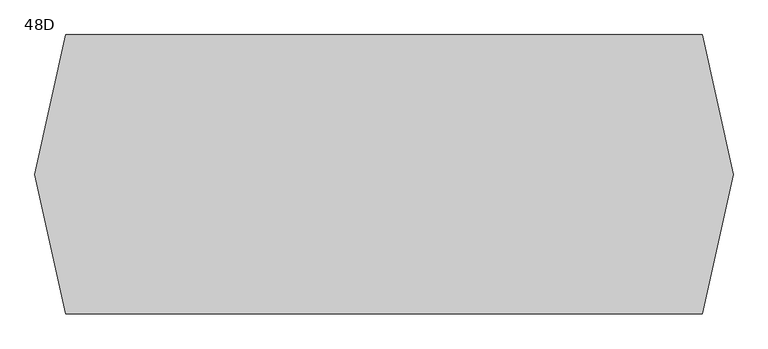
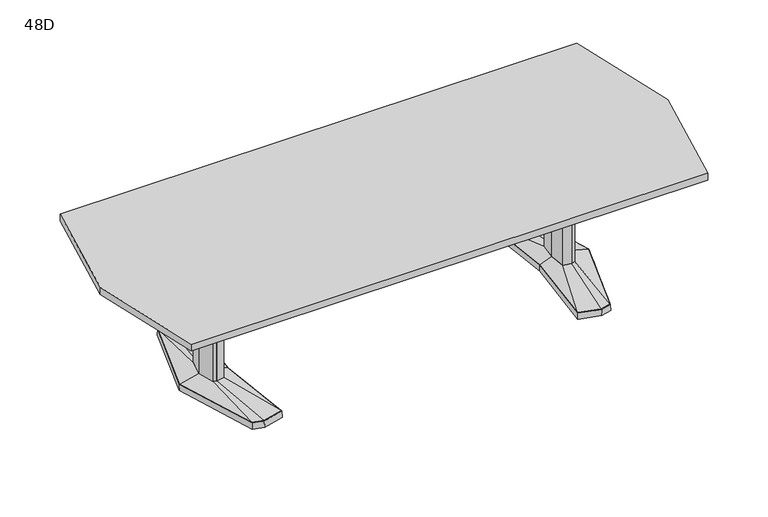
"""IFC4 building model written with IfcOpenShell, lengths in millimetres: furniture geometry, Coalesse_AM_Table_Conference_ETable2_Faceted_10ft_AluminiumBase : 48D."""

from ifc_helpers import new_model, si_unit, frame, origin, place, context, project, spatial, polyline, outline, extrude, faceted_brep, source, transform, mapped, element, save
from ifc_brep_helpers import plane_surface, spline_surface, advanced_brep


def furniture_48d_3d201100(model_context):
    return source(origin(), model_context, "Body", "SolidModel", [
        faceted_brep([(905.8773747, 455.5848221, 38.1), (796.2998188, 426.2263816, 38.1), (837.4630629, 0.0, 38.1), (796.2998188, -426.2263816, 38.1), (905.8773747, -455.5848221, 38.1), (962.0037308, -440.5478297, 38.1), (1099.3151181, 0.0, 38.1), (962.0037308, 440.5478297, 38.1), (905.8773666, 457.2283104, 3.175), (963.2591384, 441.8549756, 3.175), (1100.9779412, 0.0, 3.175), (963.2591384, -441.8549756, 3.175), (905.8773666, -457.2283104, 3.175), (794.5904412, -427.4118891, 3.175), (835.8681768, 0.0, 3.175), (794.5904412, 427.4118891, 3.175), (909.4668062, 428.3273875, 3.175), (804.418514, 402.1057253, 3.175), (812.5372092, 377.985069, 3.175), (913.0562377, 401.0699529, 3.175), (963.6158637, 387.524361, 3.175), (962.8097973, 414.0360954, 3.175), (909.4668062, -428.3273875, 3.175), (962.8097973, -414.0360954, 3.175), (963.6158637, -387.524361, 3.175), (913.0562377, -401.0699529, 3.175), (812.5372092, -377.985069, 3.175), (804.418514, -402.1057253, 3.175), (1036.0620533, 0.0, 3.175), (1003.7926523, 120.4193755, 3.175), (955.1454133, 133.471665, 3.175), (875.2647438, 119.4176561, 3.175), (864.1335378, 0.0, 3.175), (875.2647438, -119.4176561, 3.175), (955.1454133, -133.471665, 3.175), (1003.7926523, -120.4193755, 3.175), (909.4668062, 428.3273875, 0.0), (962.8097973, 414.0360954, 0.0), (963.6158637, 387.524361, 0.0), (913.0562377, 401.0699529, 0.0), (812.5372092, 377.985069, 0.0), (804.418514, 402.1057253, 0.0), (909.4668062, -428.3273875, 0.0), (804.418514, -402.1057253, 0.0), (812.5372092, -377.985069, 0.0), (913.0562377, -401.0699529, 0.0), (963.6158637, -387.524361, 0.0), (962.8097973, -414.0360954, 0.0), (1036.0620533, 0.0, 0.0), (1003.7926523, -120.4193755, 0.0), (955.1454133, -133.471665, 0.0), (875.2647438, -119.4176561, 0.0), (864.1335378, 0.0, 0.0), (875.2647438, 119.4176561, 0.0), (955.1454133, 133.471665, 0.0), (1003.7926523, 120.4193755, 0.0)], [[[0, 1, 2, 3, 4, 5, 6, 7]], [[8, 9, 10, 11, 12, 13, 14, 15], [16, 17, 18, 19, 20, 21], [22, 23, 24, 25, 26, 27], [28, 29, 30, 31, 32, 33, 34, 35]], [[7, 9, 8, 0]], [[6, 10, 9, 7]], [[5, 11, 10, 6]], [[4, 12, 11, 5]], [[3, 13, 12, 4]], [[2, 14, 13, 3]], [[1, 15, 14, 2]], [[0, 8, 15, 1]], [[36, 37, 38, 39, 40, 41]], [[42, 43, 44, 45, 46, 47]], [[48, 49, 50, 51, 52, 53, 54, 55]], [[36, 16, 21, 37]], [[37, 21, 20, 38]], [[38, 20, 19, 39]], [[39, 19, 18, 40]], [[40, 18, 17, 41]], [[41, 17, 16, 36]], [[42, 22, 27, 43]], [[43, 27, 26, 44]], [[44, 26, 25, 45]], [[45, 25, 24, 46]], [[46, 24, 23, 47]], [[47, 23, 22, 42]], [[48, 28, 35, 49]], [[49, 35, 34, 50]], [[50, 34, 33, 51]], [[51, 33, 32, 52]], [[52, 32, 31, 53]], [[53, 31, 30, 54]], [[54, 30, 29, 55]], [[55, 29, 28, 48]]]),
        faceted_brep([(996.6177748, 0.0, 698.5), (972.6825457, 89.3188359, 698.5), (955.8291896, 93.8406728, 698.5), (953.4293423, 94.4845635, 698.5), (910.5018372, 86.9320037, 698.5), (902.3986967, 0.0, 698.5), (910.5018372, -86.9320037, 698.5), (953.4293423, -94.4845635, 698.5), (955.8291896, -93.8406728, 698.5), (972.6825457, -89.3188359, 698.5), (996.6177748, 0.0, 63.5), (972.6825457, -89.3188359, 63.5), (955.8291896, -93.8406728, 63.5), (953.4293423, -94.4845635, 63.5), (910.5018372, -86.9320037, 63.5), (902.3986967, 0.0, 63.5), (910.5018372, 86.9320037, 63.5), (953.4293423, 94.4845635, 63.5), (955.8291896, 93.8406728, 63.5), (972.6825457, 89.3188359, 63.5)], [[[0, 1, 2, 3, 4, 5, 6, 7, 8, 9]], [[10, 11, 12, 13, 14, 15, 16, 17, 18, 19]], [[9, 11, 10, 0]], [[8, 12, 11, 9]], [[7, 13, 12, 8]], [[6, 14, 13, 7]], [[5, 15, 14, 6]], [[4, 16, 15, 5]], [[3, 17, 16, 4]], [[2, 18, 17, 3]], [[1, 19, 18, 2]], [[0, 10, 19, 1]]]),
        advanced_brep(
        [(953.4293423, 94.4845635, 63.5), (910.5018372, 86.9320037, 63.5), (902.3986967, 0.0, 63.5), (910.5018372, -86.9320037, 63.5), (953.4293423, -94.4845635, 63.5), (972.6825457, -89.3188359, 63.5), (996.6177748, 0.0, 63.5), (972.6825457, 89.3188359, 63.5), (905.8773747, 455.5848221, 38.1), (962.0037308, 440.5478297, 38.1), (1099.3151181, 0.0, 38.1), (962.0037308, -440.5478297, 38.1), (905.8773747, -455.5848221, 38.1), (796.2998188, -426.2263816, 38.1), (837.4630629, 0.0, 38.1), (796.2998188, 426.2263816, 38.1)],
        [
            (0, 1),
            (1, 2),
            (2, 3),
            (3, 4),
            (4, 5),
            (5, 6),
            (6, 7),
            (7, 0),
            (8, 9),
            (9, 10),
            (10, 11),
            (11, 12),
            (12, 13),
            (13, 14),
            (14, 15),
            (15, 8),
            (8, 0),
            (7, 9),
            (6, 10),
            (5, 11),
            (4, 12),
            (3, 13),
            (2, 14),
            (1, 15),
        ],
        [
            plane_surface(frame((946.5304902, 0.0, 63.5), z_axis=(0.0, 0.0, 1.0), x_axis=(-0.25884244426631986, -0.9659195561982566, 0.0))),
            plane_surface(frame((908.1425037, 0.0, 38.1), z_axis=(0.0, 0.0, -1.0), x_axis=(-0.25884244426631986, -0.9659195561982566, 0.0))),
            spline_surface(1, 1, [[(905.8773747, 455.5848221, 38.1), (962.0037308, 440.5478297, 38.1)], [(953.4293423, 94.4845635, 63.5), (972.6825457, 89.3188359, 63.5)]], [2, 2], [2, 2], [0.0, 1.0], [0.0, 1.0]),
            spline_surface(1, 1, [[(962.0037308, 440.5478297, 38.1), (1099.3151181, 0.0, 38.1)], [(972.6825457, 89.3188359, 63.5), (996.6177748, 0.0, 63.5)]], [2, 2], [2, 2], [0.0, 1.0], [0.0, 1.0]),
            spline_surface(1, 1, [[(1099.3151181, 0.0, 38.1), (962.0037308, -440.5478297, 38.1)], [(996.6177748, 0.0, 63.5), (972.6825457, -89.3188359, 63.5)]], [2, 2], [2, 2], [0.0, 1.0], [0.0, 1.0]),
            spline_surface(1, 1, [[(962.0037308, -440.5478297, 38.1), (905.8773747, -455.5848221, 38.1)], [(972.6825457, -89.3188359, 63.5), (953.4293423, -94.4845635, 63.5)]], [2, 2], [2, 2], [0.0, 1.0], [0.0, 1.0]),
            spline_surface(1, 1, [[(905.8773747, -455.5848221, 38.1), (796.2998188, -426.2263816, 38.1)], [(953.4293423, -94.4845635, 63.5), (910.5018372, -86.9320037, 63.5)]], [2, 2], [2, 2], [0.0, 1.0], [0.0, 1.0]),
            spline_surface(1, 1, [[(796.2998188, -426.2263816, 38.1), (837.4630629, 0.0, 38.1)], [(910.5018372, -86.9320037, 63.5), (902.3986967, 0.0, 63.5)]], [2, 2], [2, 2], [0.0, 1.0], [0.0, 1.0]),
            spline_surface(1, 1, [[(837.4630629, 0.0, 38.1), (796.2998188, 426.2263816, 38.1)], [(902.3986967, 0.0, 63.5), (910.5018372, 86.9320037, 63.5)]], [2, 2], [2, 2], [0.0, 1.0], [0.0, 1.0]),
            spline_surface(1, 1, [[(796.2998188, 426.2263816, 38.1), (905.8773747, 455.5848221, 38.1)], [(910.5018372, 86.9320037, 63.5), (953.4293423, 94.4845635, 63.5)]], [2, 2], [2, 2], [0.0, 1.0], [0.0, 1.0]),
        ],
        [
            (0, [[1, 2, 3, 4, 5, 6, 7, 8]]),
            (1, [[9, 10, 11, 12, 13, 14, 15, 16]]),
            (2, [[17, -8, 18, -9]]),
            (3, [[-18, -7, 19, -10]]),
            (4, [[-19, -6, 20, -11]]),
            (5, [[-20, -5, 21, -12]]),
            (6, [[-21, -4, 22, -13]]),
            (7, [[-22, -3, 23, -14]]),
            (8, [[-23, -2, 24, -15]]),
            (9, [[-24, -1, -17, -16]]),
        ],
    ),
        faceted_brep([(-905.8306835, 455.5848221, 38.1), (-961.9570396, 440.5478297, 38.1), (-1099.2684269, 0.0, 38.1), (-961.9570396, -440.5478297, 38.1), (-905.8306835, -455.5848221, 38.1), (-796.2531277, -426.2263816, 38.1), (-837.4163717, 0.0, 38.1), (-796.2531277, 426.2263816, 38.1), (-905.8306754, 457.2283104, 3.175), (-794.54375, 427.4118891, 3.175), (-835.8214856, 0.0, 3.175), (-794.54375, -427.4118891, 3.175), (-905.8306754, -457.2283104, 3.175), (-963.2124472, -441.8549756, 3.175), (-1100.93125, 0.0, 3.175), (-963.2124472, 441.8549756, 3.175), (-909.420115, 428.3273875, 3.175), (-962.7631061, 414.0360954, 3.175), (-963.5691725, 387.524361, 3.175), (-913.0095466, 401.0699529, 3.175), (-812.490518, 377.985069, 3.175), (-804.3718228, 402.1057253, 3.175), (-909.420115, -428.3273875, 3.175), (-804.3718228, -402.1057253, 3.175), (-812.490518, -377.985069, 3.175), (-913.0095466, -401.0699529, 3.175), (-963.5691725, -387.524361, 3.175), (-962.7631061, -414.0360954, 3.175), (-1036.0153621, 0.0, 3.175), (-1003.7459611, -120.4193755, 3.175), (-955.0987222, -133.471665, 3.175), (-875.2180526, -119.4176561, 3.175), (-864.0868466, 0.0, 3.175), (-875.2180526, 119.4176561, 3.175), (-955.0987222, 133.471665, 3.175), (-1003.7459611, 120.4193755, 3.175), (-909.420115, 428.3273875, 0.0), (-804.3718228, 402.1057253, 0.0), (-812.490518, 377.985069, 0.0), (-913.0095466, 401.0699529, 0.0), (-963.5691725, 387.524361, 0.0), (-962.7631061, 414.0360954, 0.0), (-909.420115, -428.3273875, 0.0), (-962.7631061, -414.0360954, 0.0), (-963.5691725, -387.524361, 0.0), (-913.0095466, -401.0699529, 0.0), (-812.490518, -377.985069, 0.0), (-804.3718228, -402.1057253, 0.0), (-1036.0153621, 0.0, 0.0), (-1003.7459611, 120.4193755, 0.0), (-955.0987222, 133.471665, 0.0), (-875.2180526, 119.4176561, 0.0), (-864.0868466, 0.0, 0.0), (-875.2180526, -119.4176561, 0.0), (-955.0987222, -133.471665, 0.0), (-1003.7459611, -120.4193755, 0.0)], [[[0, 1, 2, 3, 4, 5, 6, 7]], [[8, 9, 10, 11, 12, 13, 14, 15], [16, 17, 18, 19, 20, 21], [22, 23, 24, 25, 26, 27], [28, 29, 30, 31, 32, 33, 34, 35]], [[1, 0, 8, 15]], [[2, 1, 15, 14]], [[3, 2, 14, 13]], [[4, 3, 13, 12]], [[5, 4, 12, 11]], [[6, 5, 11, 10]], [[7, 6, 10, 9]], [[0, 7, 9, 8]], [[36, 37, 38, 39, 40, 41]], [[42, 43, 44, 45, 46, 47]], [[48, 49, 50, 51, 52, 53, 54, 55]], [[36, 41, 17, 16]], [[41, 40, 18, 17]], [[40, 39, 19, 18]], [[39, 38, 20, 19]], [[38, 37, 21, 20]], [[37, 36, 16, 21]], [[42, 47, 23, 22]], [[47, 46, 24, 23]], [[46, 45, 25, 24]], [[45, 44, 26, 25]], [[44, 43, 27, 26]], [[43, 42, 22, 27]], [[48, 55, 29, 28]], [[55, 54, 30, 29]], [[54, 53, 31, 30]], [[53, 52, 32, 31]], [[52, 51, 33, 32]], [[51, 50, 34, 33]], [[50, 49, 35, 34]], [[49, 48, 28, 35]]]),
        faceted_brep([(-996.5710836, 0.0, 698.5), (-972.6358546, -89.3188359, 698.5), (-955.7824984, -93.8406728, 698.5), (-953.3826511, -94.4845635, 698.5), (-910.455146, -86.9320037, 698.5), (-902.3520056, 0.0, 698.5), (-910.455146, 86.9320037, 698.5), (-953.3826511, 94.4845635, 698.5), (-955.7824984, 93.8406728, 698.5), (-972.6358546, 89.3188359, 698.5), (-996.5710836, 0.0, 63.5), (-972.6358546, 89.3188359, 63.5), (-955.7824984, 93.8406728, 63.5), (-953.3826511, 94.4845635, 63.5), (-910.455146, 86.9320037, 63.5), (-902.3520056, 0.0, 63.5), (-910.455146, -86.9320037, 63.5), (-953.3826511, -94.4845635, 63.5), (-955.7824984, -93.8406728, 63.5), (-972.6358546, -89.3188359, 63.5)], [[[0, 1, 2, 3, 4, 5, 6, 7, 8, 9]], [[10, 11, 12, 13, 14, 15, 16, 17, 18, 19]], [[1, 0, 10, 19]], [[2, 1, 19, 18]], [[3, 2, 18, 17]], [[4, 3, 17, 16]], [[5, 4, 16, 15]], [[6, 5, 15, 14]], [[7, 6, 14, 13]], [[8, 7, 13, 12]], [[9, 8, 12, 11]], [[0, 9, 11, 10]]]),
        advanced_brep(
        [(-953.3826511, 94.4845635, 63.5), (-972.6358546, 89.3188359, 63.5), (-996.5710836, 0.0, 63.5), (-972.6358546, -89.3188359, 63.5), (-953.3826511, -94.4845635, 63.5), (-910.455146, -86.9320037, 63.5), (-902.3520056, 0.0, 63.5), (-910.455146, 86.9320037, 63.5), (-905.8306835, 455.5848221, 38.1), (-796.2531277, 426.2263816, 38.1), (-837.4163717, 0.0, 38.1), (-796.2531277, -426.2263816, 38.1), (-905.8306835, -455.5848221, 38.1), (-961.9570396, -440.5478297, 38.1), (-1099.2684269, 0.0, 38.1), (-961.9570396, 440.5478297, 38.1)],
        [
            (0, 1),
            (1, 2),
            (2, 3),
            (3, 4),
            (4, 5),
            (5, 6),
            (6, 7),
            (7, 0),
            (8, 9),
            (9, 10),
            (10, 11),
            (11, 12),
            (12, 13),
            (13, 14),
            (14, 15),
            (15, 8),
            (15, 1),
            (0, 8),
            (14, 2),
            (13, 3),
            (12, 4),
            (11, 5),
            (10, 6),
            (9, 7),
        ],
        [
            plane_surface(frame((-946.4837991, 0.0, 63.5), z_axis=(0.0, 0.0, 1.0), x_axis=(0.25884244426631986, -0.9659195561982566, 0.0))),
            plane_surface(frame((-908.0958125, 0.0, 38.1), z_axis=(0.0, 0.0, -1.0), x_axis=(0.25884244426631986, -0.9659195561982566, 0.0))),
            spline_surface(1, 1, [[(-905.8306835, 455.5848221, 38.1), (-953.3826511, 94.4845635, 63.5)], [(-961.9570396, 440.5478297, 38.1), (-972.6358546, 89.3188359, 63.5)]], [2, 2], [2, 2], [0.0, 1.0], [0.0, 1.0]),
            spline_surface(1, 1, [[(-961.9570396, 440.5478297, 38.1), (-972.6358546, 89.3188359, 63.5)], [(-1099.2684269, 0.0, 38.1), (-996.5710836, 0.0, 63.5)]], [2, 2], [2, 2], [0.0, 1.0], [0.0, 1.0]),
            spline_surface(1, 1, [[(-1099.2684269, 0.0, 38.1), (-996.5710836, 0.0, 63.5)], [(-961.9570396, -440.5478297, 38.1), (-972.6358546, -89.3188359, 63.5)]], [2, 2], [2, 2], [0.0, 1.0], [0.0, 1.0]),
            spline_surface(1, 1, [[(-961.9570396, -440.5478297, 38.1), (-972.6358546, -89.3188359, 63.5)], [(-905.8306835, -455.5848221, 38.1), (-953.3826511, -94.4845635, 63.5)]], [2, 2], [2, 2], [0.0, 1.0], [0.0, 1.0]),
            spline_surface(1, 1, [[(-905.8306835, -455.5848221, 38.1), (-953.3826511, -94.4845635, 63.5)], [(-796.2531277, -426.2263816, 38.1), (-910.455146, -86.9320037, 63.5)]], [2, 2], [2, 2], [0.0, 1.0], [0.0, 1.0]),
            spline_surface(1, 1, [[(-796.2531277, -426.2263816, 38.1), (-910.455146, -86.9320037, 63.5)], [(-837.4163717, 0.0, 38.1), (-902.3520056, 0.0, 63.5)]], [2, 2], [2, 2], [0.0, 1.0], [0.0, 1.0]),
            spline_surface(1, 1, [[(-837.4163717, 0.0, 38.1), (-902.3520056, 0.0, 63.5)], [(-796.2531277, 426.2263816, 38.1), (-910.455146, 86.9320037, 63.5)]], [2, 2], [2, 2], [0.0, 1.0], [0.0, 1.0]),
            spline_surface(1, 1, [[(-796.2531277, 426.2263816, 38.1), (-910.455146, 86.9320037, 63.5)], [(-905.8306835, 455.5848221, 38.1), (-953.3826511, 94.4845635, 63.5)]], [2, 2], [2, 2], [0.0, 1.0], [0.0, 1.0]),
        ],
        [
            (0, [[1, 2, 3, 4, 5, 6, 7, 8]]),
            (1, [[9, 10, 11, 12, 13, 14, 15, 16]]),
            (2, [[-16, 17, -1, 18]]),
            (3, [[-15, 19, -2, -17]]),
            (4, [[-14, 20, -3, -19]]),
            (5, [[-13, 21, -4, -20]]),
            (6, [[-12, 22, -5, -21]]),
            (7, [[-11, 23, -6, -22]]),
            (8, [[-10, 24, -7, -23]]),
            (9, [[-9, -18, -8, -24]]),
        ],
    ),
        extrude(outline(polyline([(-1524.0, 0.0), (-1388.8541794, 609.6), (1388.8541794, 609.6), (1524.0, 0.0), (1388.8541794, -609.6), (-1388.8541794, -609.6), (-1524.0, 0.0)])), frame((0.0, 0.0, 698.5), z_axis=(0.0, 0.0, 1.0), x_axis=(1.0, 0.0, 0.0)), (0.0, 0.0, 1.0), 38.1),
        extrude(outline(polyline([(96.8375, 698.5), (103.1875, 698.5), (103.1875, 476.25), (-103.1875, 476.25), (-103.1875, 698.5), (-96.8375, 698.5), (-96.8375, 482.6), (96.8375, 482.6), (96.8375, 698.5)])), frame((-902.3520056, 0.0, 0.0), z_axis=(1.0, 0.0, 0.0), x_axis=(0.0, 1.0, 0.0)), (0.0, 0.0, 1.0), 1804.7507023),
    ])


if __name__ == "__main__":
    model = new_model("IFC4")
    model_context = context("Model", 3, world=origin())
    ifc_project = project(units=[si_unit("LENGTHUNIT", "METRE", prefix="MILLI")], contexts=[model_context])
    site = spatial("IfcSite", under=ifc_project)
    building = spatial("IfcBuilding", under=site)
    placement = place(None, origin())
    furniture_48d_shape = furniture_48d_3d201100(model_context)
    element("IfcFurniture", 1, ObjectType="Coalesse_AM_Table_Conference_ETable2_Faceted_10ft_AluminiumBase : 48D", at=placement, inside=building, context=model_context, shape_type="MappedRepresentation", body=[
        mapped(furniture_48d_shape, transform((0.0, 0.0, 0.0), x_axis=(1.0, 0.0, 0.0), y_axis=(0.0, 1.0, 0.0), z_axis=(0.0, 0.0, 1.0))),
    ])
    save(model, "model.ifc")
